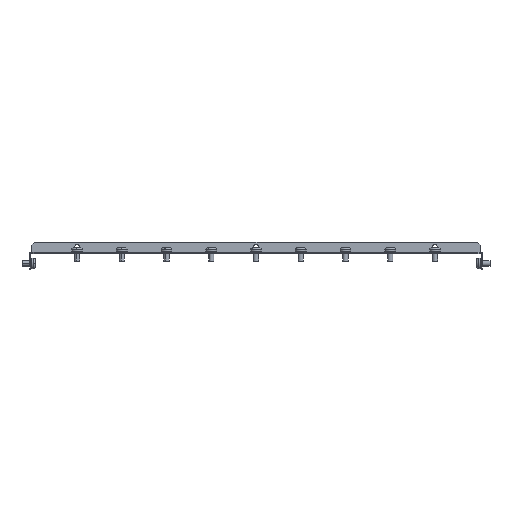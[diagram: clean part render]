
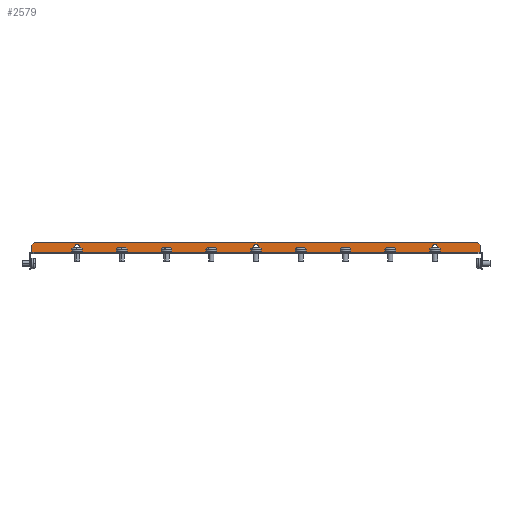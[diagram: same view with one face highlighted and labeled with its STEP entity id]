
A CAD part, left-side view. The second image highlights one B-rep face of the part: STEP entity #2579.
In plain terms, the highlighted planar face has unit normal (-1, 0, 0).
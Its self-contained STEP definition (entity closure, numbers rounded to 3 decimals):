
#17 = LINE ( 'NONE', #11169, #3341 ) ;
#205 = CIRCLE ( 'NONE', #10423, 2.6 ) ;
#328 = CARTESIAN_POINT ( 'NONE',  ( 176.5, 200., 6. ) ) ;
#1000 = VERTEX_POINT ( 'NONE', #15104 ) ;
#1411 = CARTESIAN_POINT ( 'NONE',  ( 176.5, -250.5, 1. ) ) ;
#1552 = EDGE_CURVE ( 'NONE', #10480, #13553, #8508, .T. ) ;
#1825 = VERTEX_POINT ( 'NONE', #4079 ) ;
#1880 = EDGE_CURVE ( 'NONE', #15875, #1000, #13969, .T. ) ;
#2010 = VECTOR ( 'NONE', #5197, 1000. ) ;
#2075 = CARTESIAN_POINT ( 'NONE',  ( 176.5, -250.5, 0. ) ) ;
#2345 = ORIENTED_EDGE ( 'NONE', *, *, #7323, .F. ) ;
#2579 = ADVANCED_FACE ( 'NONE', ( #10809, #16407, #7946, #13650 ), #12252, .T. ) ;
#2677 = CARTESIAN_POINT ( 'NONE',  ( 176.5, -250.5, 0. ) ) ;
#2900 = EDGE_CURVE ( 'NONE', #1825, #14974, #15604, .T. ) ;
#2901 = VECTOR ( 'NONE', #15493, 1000. ) ;
#2995 = ORIENTED_EDGE ( 'NONE', *, *, #17604, .T. ) ;
#3032 = VERTEX_POINT ( 'NONE', #12060 ) ;
#3120 = CIRCLE ( 'NONE', #16895, 2.6 ) ;
#3222 = EDGE_CURVE ( 'NONE', #5643, #7721, #3932, .T. ) ;
#3271 = ORIENTED_EDGE ( 'NONE', *, *, #8139, .F. ) ;
#3341 = VECTOR ( 'NONE', #16769, 1000. ) ;
#3362 = LINE ( 'NONE', #7554, #2010 ) ;
#3630 = ORIENTED_EDGE ( 'NONE', *, *, #11340, .T. ) ;
#3932 = LINE ( 'NONE', #9308, #17639 ) ;
#4079 = CARTESIAN_POINT ( 'NONE',  ( 176.5, 200., 3.4 ) ) ;
#4602 = ORIENTED_EDGE ( 'NONE', *, *, #1552, .F. ) ;
#4761 = DIRECTION ( 'NONE',  ( 1., 0., 0. ) ) ;
#4864 = DIRECTION ( 'NONE',  ( 1., 0., 0. ) ) ;
#4917 = ORIENTED_EDGE ( 'NONE', *, *, #3222, .T. ) ;
#4939 = DIRECTION ( 'NONE',  ( 0., 0., 1. ) ) ;
#5048 = DIRECTION ( 'NONE',  ( 0., 1., 0. ) ) ;
#5182 = AXIS2_PLACEMENT_3D ( 'NONE', #8629, #15992, #17368 ) ;
#5184 = CARTESIAN_POINT ( 'NONE',  ( 176.5, -200., 3.4 ) ) ;
#5197 = DIRECTION ( 'NONE',  ( 0., 0., -1. ) ) ;
#5393 = DIRECTION ( 'NONE',  ( 0., 0., -1. ) ) ;
#5522 = EDGE_CURVE ( 'NONE', #5643, #16566, #14732, .T. ) ;
#5643 = VERTEX_POINT ( 'NONE', #14995 ) ;
#5890 = AXIS2_PLACEMENT_3D ( 'NONE', #17420, #4864, #8027 ) ;
#5968 = DIRECTION ( 'NONE',  ( 0., -1., 0. ) ) ;
#6038 = DIRECTION ( 'NONE',  ( 1., 0., 0. ) ) ;
#6429 = EDGE_CURVE ( 'NONE', #14974, #1825, #205, .T. ) ;
#6465 = EDGE_LOOP ( 'NONE', ( #18024, #11245 ) ) ;
#6473 = AXIS2_PLACEMENT_3D ( 'NONE', #6695, #18055, #16683 ) ;
#6593 = CARTESIAN_POINT ( 'NONE',  ( 176.5, 0., 0. ) ) ;
#6695 = CARTESIAN_POINT ( 'NONE',  ( 176.5, 0., 6. ) ) ;
#7007 = CARTESIAN_POINT ( 'NONE',  ( 176.5, 0., 3.4 ) ) ;
#7323 = EDGE_CURVE ( 'NONE', #15875, #10480, #3362, .T. ) ;
#7399 = CARTESIAN_POINT ( 'NONE',  ( 176.5, -200., 6. ) ) ;
#7554 = CARTESIAN_POINT ( 'NONE',  ( 176.5, -250.5, 0. ) ) ;
#7652 = CARTESIAN_POINT ( 'NONE',  ( 176.5, 250.5, 11. ) ) ;
#7721 = VERTEX_POINT ( 'NONE', #8702 ) ;
#7946 = FACE_BOUND ( 'NONE', #6465, .T. ) ;
#8027 = DIRECTION ( 'NONE',  ( 0., 0., 1. ) ) ;
#8139 = EDGE_CURVE ( 'NONE', #13553, #7721, #11443, .T. ) ;
#8312 = VECTOR ( 'NONE', #4939, 1000. ) ;
#8403 = EDGE_CURVE ( 'NONE', #3032, #1000, #14224, .T. ) ;
#8492 = ORIENTED_EDGE ( 'NONE', *, *, #8403, .F. ) ;
#8508 = LINE ( 'NONE', #2677, #15528 ) ;
#8629 = CARTESIAN_POINT ( 'NONE',  ( 176.5, 0., 6. ) ) ;
#8702 = CARTESIAN_POINT ( 'NONE',  ( 176.5, 250.5, 0. ) ) ;
#9008 = CARTESIAN_POINT ( 'NONE',  ( 176.5, -250.5, 8. ) ) ;
#9308 = CARTESIAN_POINT ( 'NONE',  ( 176.5, 250.5, 1. ) ) ;
#9719 = ORIENTED_EDGE ( 'NONE', *, *, #14142, .T. ) ;
#10286 = DIRECTION ( 'NONE',  ( 1., 0., 0. ) ) ;
#10330 = DIRECTION ( 'NONE',  ( 0., 0., 1. ) ) ;
#10423 = AXIS2_PLACEMENT_3D ( 'NONE', #328, #10286, #15890 ) ;
#10480 = VERTEX_POINT ( 'NONE', #1411 ) ;
#10555 = CARTESIAN_POINT ( 'NONE',  ( 176.5, 250.5, 8. ) ) ;
#10613 = AXIS2_PLACEMENT_3D ( 'NONE', #17311, #4761, #10330 ) ;
#10688 = EDGE_LOOP ( 'NONE', ( #3630, #2995 ) ) ;
#10809 = FACE_BOUND ( 'NONE', #10948, .T. ) ;
#10948 = EDGE_LOOP ( 'NONE', ( #9719, #12675 ) ) ;
#11033 = CIRCLE ( 'NONE', #5182, 2.6 ) ;
#11169 = CARTESIAN_POINT ( 'NONE',  ( 176.5, 129.25, 129.25 ) ) ;
#11245 = ORIENTED_EDGE ( 'NONE', *, *, #2900, .T. ) ;
#11340 = EDGE_CURVE ( 'NONE', #12901, #12991, #15853, .T. ) ;
#11366 = CARTESIAN_POINT ( 'NONE',  ( 176.5, -250.5, 11. ) ) ;
#11443 = LINE ( 'NONE', #17056, #2901 ) ;
#11576 = EDGE_CURVE ( 'NONE', #15871, #12601, #13791, .T. ) ;
#11628 = DIRECTION ( 'NONE',  ( 0., 0., 1. ) ) ;
#11729 = ORIENTED_EDGE ( 'NONE', *, *, #5522, .F. ) ;
#11883 = CARTESIAN_POINT ( 'NONE',  ( 176.5, 0., 8.6 ) ) ;
#11988 = DIRECTION ( 'NONE',  ( -1., 0., 0. ) ) ;
#12060 = CARTESIAN_POINT ( 'NONE',  ( 176.5, 247.5, 11. ) ) ;
#12150 = ORIENTED_EDGE ( 'NONE', *, *, #14000, .T. ) ;
#12252 = PLANE ( 'NONE',  #14415 ) ;
#12309 = ORIENTED_EDGE ( 'NONE', *, *, #1880, .T. ) ;
#12601 = VERTEX_POINT ( 'NONE', #17592 ) ;
#12675 = ORIENTED_EDGE ( 'NONE', *, *, #11576, .T. ) ;
#12751 = CARTESIAN_POINT ( 'NONE',  ( 176.5, -129.25, 129.25 ) ) ;
#12901 = VERTEX_POINT ( 'NONE', #11883 ) ;
#12991 = VERTEX_POINT ( 'NONE', #7007 ) ;
#13553 = VERTEX_POINT ( 'NONE', #2075 ) ;
#13650 = FACE_OUTER_BOUND ( 'NONE', #16139, .T. ) ;
#13791 = CIRCLE ( 'NONE', #5890, 2.6 ) ;
#13969 = LINE ( 'NONE', #12751, #16725 ) ;
#14000 = EDGE_CURVE ( 'NONE', #3032, #16566, #17, .T. ) ;
#14125 = DIRECTION ( 'NONE',  ( 0., 0., -1. ) ) ;
#14142 = EDGE_CURVE ( 'NONE', #12601, #15871, #3120, .T. ) ;
#14224 = LINE ( 'NONE', #11366, #14336 ) ;
#14323 = CARTESIAN_POINT ( 'NONE',  ( 176.5, 200., 8.6 ) ) ;
#14336 = VECTOR ( 'NONE', #5968, 1000. ) ;
#14415 = AXIS2_PLACEMENT_3D ( 'NONE', #6593, #11988, #5048 ) ;
#14732 = LINE ( 'NONE', #7652, #8312 ) ;
#14974 = VERTEX_POINT ( 'NONE', #14323 ) ;
#14995 = CARTESIAN_POINT ( 'NONE',  ( 176.5, 250.5, 1. ) ) ;
#15104 = CARTESIAN_POINT ( 'NONE',  ( 176.5, -247.5, 11. ) ) ;
#15254 = DIRECTION ( 'NONE',  ( 0., 0.707, 0.707 ) ) ;
#15493 = DIRECTION ( 'NONE',  ( 0., 1., 0. ) ) ;
#15528 = VECTOR ( 'NONE', #14125, 1000. ) ;
#15604 = CIRCLE ( 'NONE', #10613, 2.6 ) ;
#15853 = CIRCLE ( 'NONE', #6473, 2.6 ) ;
#15871 = VERTEX_POINT ( 'NONE', #5184 ) ;
#15875 = VERTEX_POINT ( 'NONE', #9008 ) ;
#15890 = DIRECTION ( 'NONE',  ( 0., 0., 1. ) ) ;
#15992 = DIRECTION ( 'NONE',  ( 1., 0., 0. ) ) ;
#16139 = EDGE_LOOP ( 'NONE', ( #8492, #12150, #11729, #4917, #3271, #4602, #2345, #12309 ) ) ;
#16407 = FACE_BOUND ( 'NONE', #10688, .T. ) ;
#16566 = VERTEX_POINT ( 'NONE', #10555 ) ;
#16683 = DIRECTION ( 'NONE',  ( 0., 0., 1. ) ) ;
#16725 = VECTOR ( 'NONE', #15254, 1000. ) ;
#16769 = DIRECTION ( 'NONE',  ( 0., 0.707, -0.707 ) ) ;
#16895 = AXIS2_PLACEMENT_3D ( 'NONE', #7399, #6038, #11628 ) ;
#17056 = CARTESIAN_POINT ( 'NONE',  ( 176.5, 0., 0. ) ) ;
#17311 = CARTESIAN_POINT ( 'NONE',  ( 176.5, 200., 6. ) ) ;
#17368 = DIRECTION ( 'NONE',  ( 0., 0., 1. ) ) ;
#17420 = CARTESIAN_POINT ( 'NONE',  ( 176.5, -200., 6. ) ) ;
#17592 = CARTESIAN_POINT ( 'NONE',  ( 176.5, -200., 8.6 ) ) ;
#17604 = EDGE_CURVE ( 'NONE', #12991, #12901, #11033, .T. ) ;
#17639 = VECTOR ( 'NONE', #5393, 1000. ) ;
#18024 = ORIENTED_EDGE ( 'NONE', *, *, #6429, .T. ) ;
#18055 = DIRECTION ( 'NONE',  ( 1., 0., 0. ) ) ;
